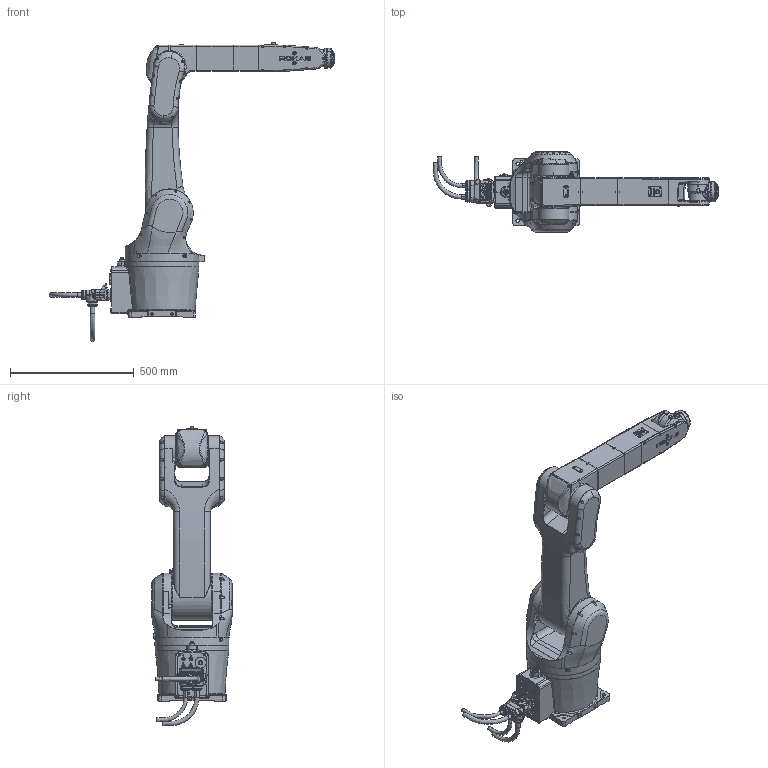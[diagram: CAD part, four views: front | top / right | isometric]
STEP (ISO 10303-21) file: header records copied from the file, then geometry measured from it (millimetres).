
FILE_DESCRIPTION(/* description */ (''),/* implementation_level */ '2;1');
FILE_NAME(/* name */ 'XB7XL_ 简化模型_20211203__stp.stp',/* time_stamp */ '2021-12-03T13:17:36+08:00',/* author */ (''),/* organization */ (''),/* preprocessor_version */ 'ST-DEVELOPER v16',/* originating_system */ 'SIEMENS PLM Software NX 10.0',/* authorisation */ '');
FILE_SCHEMA (('AUTOMOTIVE_DESIGN { 1 0 10303 214 3 1 1 1 }'));
Length unit declared in the file: millimetre
Products named in the file (8): XB7s-R1206-6; XB7s-R1206-5; XB7s-R1206-3; XB7s-R1206-4; XB7s-R1206-2; XB7s-R1206-1; XB7s-R1206-base; XB7XL_ 简化模型_20200729__stp
Assembly tree (7 placements, depth 2):
  XB7XL_ 简化模型_20200729__stp
    XB7s-R1206-base
    XB7s-R1206-1
    XB7s-R1206-2
    XB7s-R1206-4
    XB7s-R1206-3
    XB7s-R1206-5
    XB7s-R1206-6
Bounding box: 1154.15 x 324 x 1209.51 mm (x, y, z)
Volume: 44999512.4 mm3; surface area: 2352663.8 mm2
Topology: 9 solids, 66 shells, 4610 faces, 10794 edges, 6501 vertices
Faces by surface type: plane 1732, cylinder 1019, bspline 733, cone 581, torus 288, extrusion 203, sphere 54
Full cylindrical faces by diameter (mm): 2.5 x8, 2.874 x6, 3.3 x15, 3.4 x6, 3.838 x9, 4 x4, 4.2 x10, 4.5 x8, 4.8 x4, 4.826 x19, 5 x1, 5.5 x101, 6.8 x1, 7 x13, 7.7 x4, 7.76 x1, 8 x2, 8.5 x24, 9.5 x3, 10 x20, 10.701 x2, 12 x8, 12.5 x4, 13 x1, 13.5 x4, 14 x1, 15 x8, 20 x1, 22 x2, 40 x1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
Entity records: 186914 total; most frequent: CARTESIAN_POINT 92890, ORIENTED_EDGE 19640, DIRECTION 17648, EDGE_CURVE 9820, AXIS2_PLACEMENT_3D 7050, VERTEX_POINT 6290, EDGE_LOOP 5508, ADVANCED_FACE 4602
